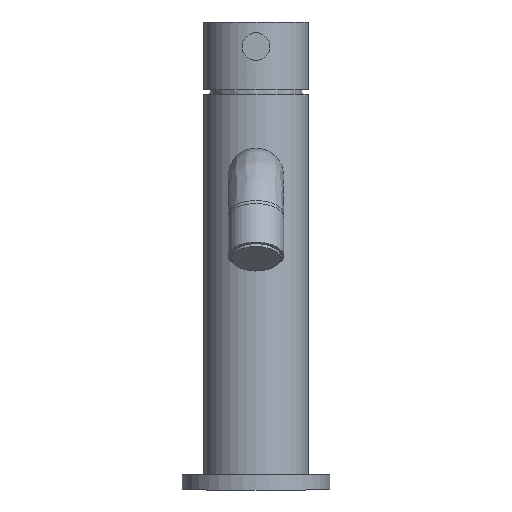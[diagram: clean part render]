
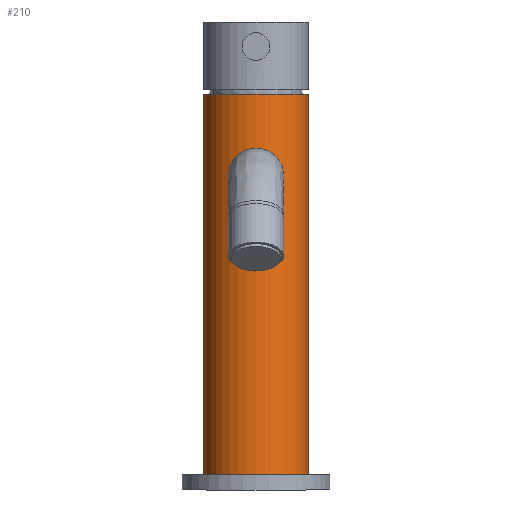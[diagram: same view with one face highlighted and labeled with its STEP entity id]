
A CAD part, front view. The second image highlights one B-rep face of the part: STEP entity #210.
In plain terms, the highlighted cylindrical face has radius 17 mm (diameter 34 mm), a partial arc.
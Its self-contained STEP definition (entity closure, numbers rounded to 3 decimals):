
#162 = EDGE_CURVE('',#163,#165,#167,.T.);
#163 = VERTEX_POINT('',#164);
#164 = CARTESIAN_POINT('',(-17.,0.,128.5));
#165 = VERTEX_POINT('',#166);
#166 = CARTESIAN_POINT('',(17.,0.,128.5));
#167 = CIRCLE('',#168,17.);
#168 = AXIS2_PLACEMENT_3D('',#169,#170,#171);
#169 = CARTESIAN_POINT('',(0.,0.,128.5));
#170 = DIRECTION('',(0.,0.,1.));
#171 = DIRECTION('',(1.,0.,0.));
#189 = VERTEX_POINT('',#190);
#190 = CARTESIAN_POINT('',(-17.,0.,5.));
#191 = VERTEX_POINT('',#192);
#192 = CARTESIAN_POINT('',(17.,0.,5.));
#199 = EDGE_CURVE('',#191,#189,#200,.T.);
#200 = CIRCLE('',#201,17.);
#201 = AXIS2_PLACEMENT_3D('',#202,#203,#204);
#202 = CARTESIAN_POINT('',(0.,0.,5.));
#203 = DIRECTION('',(0.,0.,-1.));
#204 = DIRECTION('',(1.,0.,0.));
#210 = ADVANCED_FACE('',(#211),#227,.T.);
#211 = FACE_BOUND('',#212,.T.);
#212 = EDGE_LOOP('',(#213,#214,#220,#221));
#213 = ORIENTED_EDGE('',*,*,#162,.F.);
#214 = ORIENTED_EDGE('',*,*,#215,.T.);
#215 = EDGE_CURVE('',#163,#189,#216,.T.);
#216 = LINE('',#217,#218);
#217 = CARTESIAN_POINT('',(-17.,0.,128.5));
#218 = VECTOR('',#219,1.);
#219 = DIRECTION('',(0.,0.,-1.));
#220 = ORIENTED_EDGE('',*,*,#199,.F.);
#221 = ORIENTED_EDGE('',*,*,#222,.T.);
#222 = EDGE_CURVE('',#191,#165,#223,.T.);
#223 = LINE('',#224,#225);
#224 = CARTESIAN_POINT('',(17.,0.,128.5));
#225 = VECTOR('',#226,1.);
#226 = DIRECTION('',(0.,0.,1.));
#227 = CYLINDRICAL_SURFACE('',#228,17.);
#228 = AXIS2_PLACEMENT_3D('',#229,#230,#231);
#229 = CARTESIAN_POINT('',(0.,0.,5.));
#230 = DIRECTION('',(0.,0.,1.));
#231 = DIRECTION('',(1.,0.,0.));
